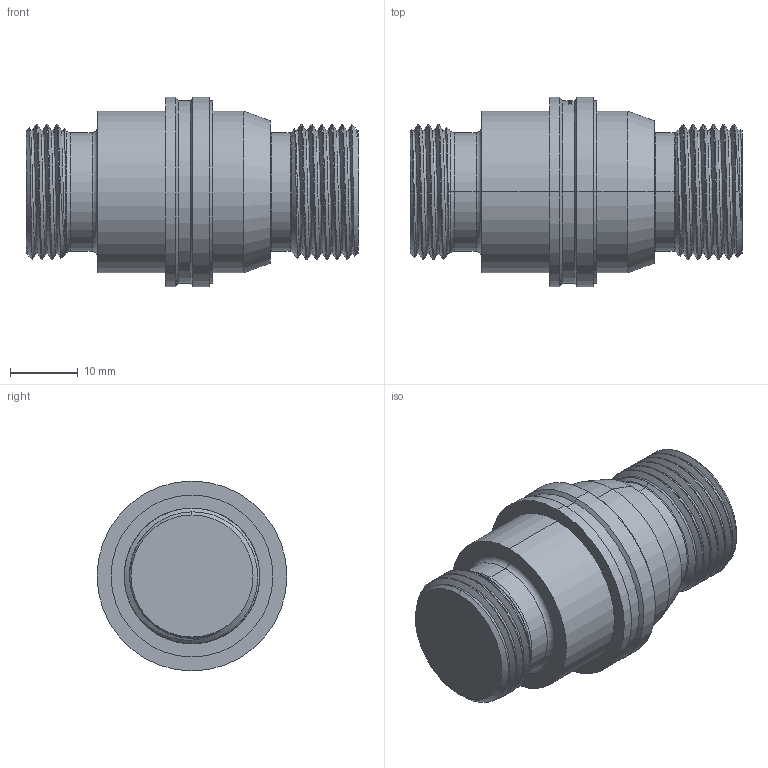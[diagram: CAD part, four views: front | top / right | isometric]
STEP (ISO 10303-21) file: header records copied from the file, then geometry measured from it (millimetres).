
FILE_DESCRIPTION (( 'STEP AP214' ), '1' );
FILE_NAME ('3DFSIJ2014000A.STEP', '2024-10-11T18:45:21', ( '' ), ( '' ), 'SwSTEP 2.0', 'SolidWorks 2023', '' );
FILE_SCHEMA (( 'AUTOMOTIVE_DESIGN' ));
Length unit declared in the file: millimetre
Products named in the file (1): 3DFSIJ2014000A
Bounding box: 48.95 x 28 x 28 mm (x, y, z)
Volume: 18515.3 mm3; surface area: 5145.4 mm2
Topology: 1 solids, 1 shells, 317 faces, 827 edges, 544 vertices
Faces by surface type: bspline 130, plane 103, cylinder 60, cone 16, torus 8
Entity records: 15108 total; most frequent: CARTESIAN_POINT 8475, ORIENTED_EDGE 1654, DIRECTION 920, EDGE_CURVE 827, VERTEX_POINT 544, B_SPLINE_CURVE_WITH_KNOTS 431, AXIS2_PLACEMENT_3D 374, EDGE_LOOP 349
